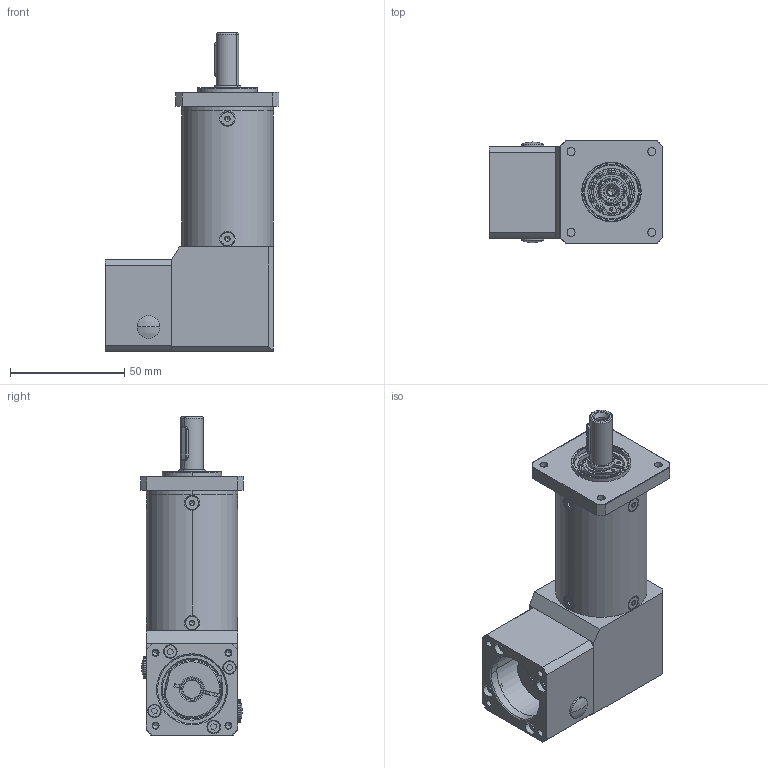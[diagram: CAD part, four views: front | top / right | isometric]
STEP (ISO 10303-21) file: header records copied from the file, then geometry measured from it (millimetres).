
FILE_DESCRIPTION (( 'STEP AP203' ), '1' );
FILE_NAME ('WPF40L3-i-P2-S2-8-25-30-45-M3.step', '2020-03-30T09:04:40', ( '个人用户' ), ( '微软中国' ), 'SwSTEP 2.0', 'SolidWorks 2018', '' );
FILE_SCHEMA (( 'CONFIG_CONTROL_DESIGN' ));
Length unit declared in the file: millimetre
Products named in the file (1): WPF40L3-i-P2-S2-8-25-30-45-M3
Bounding box: 76 x 45 x 139 mm (x, y, z)
Volume: 144487.9 mm3; surface area: 73102.3 mm2
Topology: 40 solids, 40 shells, 1435 faces, 3654 edges, 2299 vertices
Faces by surface type: cylinder 444, plane 355, cone 226, sphere 220, torus 190
Entity records: 50964 total; most frequent: CARTESIAN_POINT 16286, DIRECTION 7375, ORIENTED_EDGE 7240, EDGE_CURVE 3620, AXIS2_PLACEMENT_3D 3192, VERTEX_POINT 2299, CIRCLE 1756, EDGE_LOOP 1661
